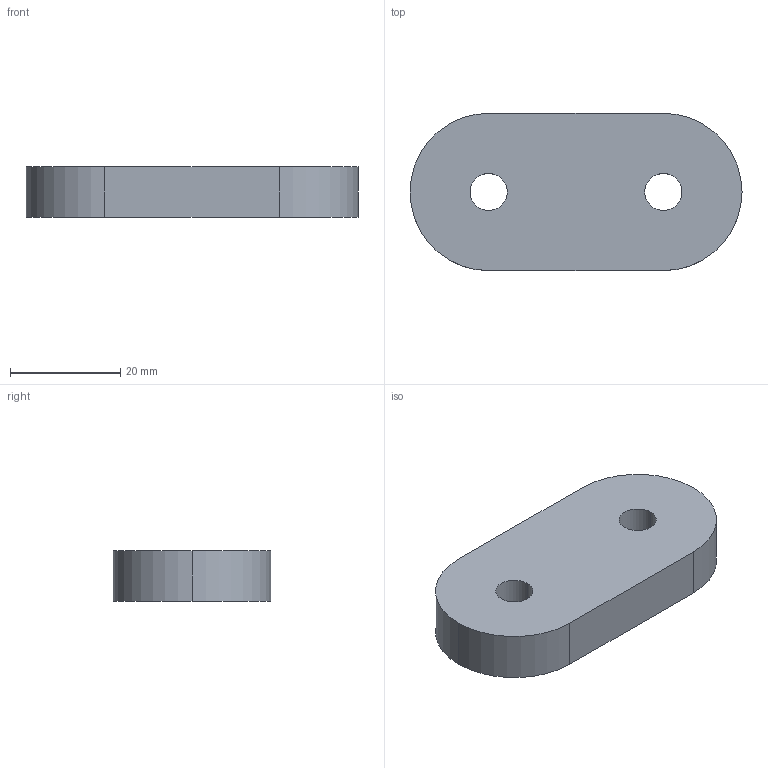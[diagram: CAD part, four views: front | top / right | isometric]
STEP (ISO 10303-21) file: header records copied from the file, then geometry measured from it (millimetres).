
FILE_DESCRIPTION (( 'STEP AP214' ), '1' );
FILE_NAME ('DRP-002-0525-00.STEP', '2013-12-20T16:56:29', ( 'ydmin' ), ( 'Microsoft' ), 'SwSTEP 2.0', 'SolidWorks 2013', '' );
FILE_SCHEMA (( 'AUTOMOTIVE_DESIGN' ));
Length unit declared in the file: inch
Products named in the file (1): DRP-002-0525-00
Bounding box: 60.33 x 28.57 x 9.14 mm (x, y, z)
Volume: 13504.3 mm3; surface area: 4743.4 mm2
Topology: 1 solids, 1 shells, 11 faces, 27 edges, 18 vertices
Faces by surface type: cylinder 7, plane 4
Entity records: 383 total; most frequent: DIRECTION 65, CARTESIAN_POINT 57, ORIENTED_EDGE 54, EDGE_CURVE 27, AXIS2_PLACEMENT_3D 26, VERTEX_POINT 18, EDGE_LOOP 15, CIRCLE 14
